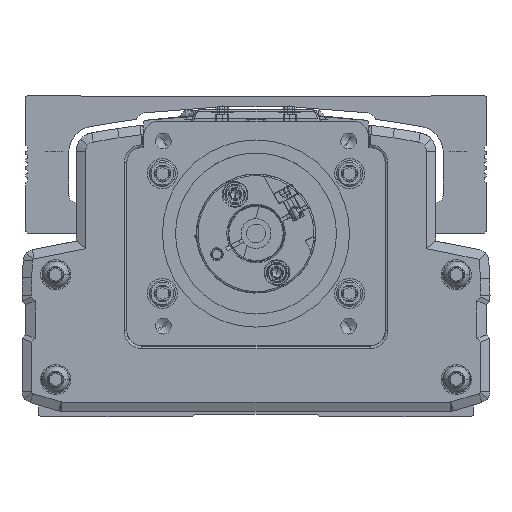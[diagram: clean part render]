
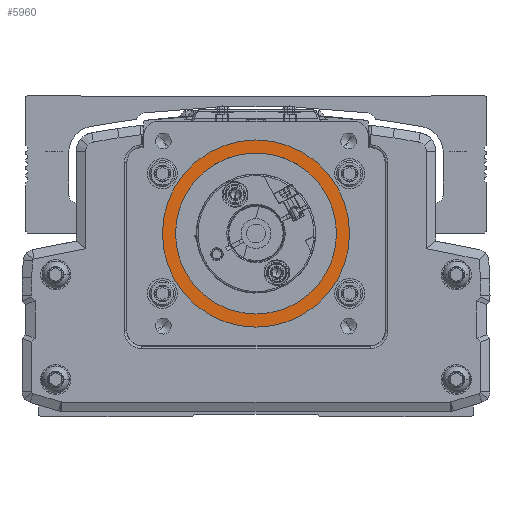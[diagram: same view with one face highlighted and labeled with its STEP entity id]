
A CAD part, front view. The second image highlights one B-rep face of the part: STEP entity #5960.
In plain terms, the highlighted planar face has unit normal (0, -1, 0).
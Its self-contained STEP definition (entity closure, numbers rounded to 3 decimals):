
#5960=ADVANCED_FACE('',(#14024,#14025),#14026,.T.);
#14024=FACE_BOUND('',#25685,.T.);
#14025=FACE_OUTER_BOUND('',#25686,.T.);
#14026=PLANE('',#25687);
#25685=EDGE_LOOP('',(#43986,#43987));
#25686=EDGE_LOOP('',(#43988,#43989));
#25687=AXIS2_PLACEMENT_3D('',#43990,#43991,#43992);
#43986=ORIENTED_EDGE('',*,*,#69164,.F.);
#43987=ORIENTED_EDGE('',*,*,#69165,.F.);
#43988=ORIENTED_EDGE('',*,*,#69166,.F.);
#43989=ORIENTED_EDGE('',*,*,#69167,.F.);
#43990=CARTESIAN_POINT('',(-300.,-635.778,0.));
#43991=DIRECTION('',(0.,-1.0,0.));
#43992=DIRECTION('',(1.0,0.,0.));
#69164=EDGE_CURVE('',#84766,#84767,#84768,.T.);
#69165=EDGE_CURVE('',#84767,#84766,#84769,.T.);
#69166=EDGE_CURVE('',#84770,#84771,#84772,.T.);
#69167=EDGE_CURVE('',#84771,#84770,#84773,.T.);
#84766=VERTEX_POINT('',#106071);
#84767=VERTEX_POINT('',#106072);
#84768=CIRCLE('',#106073,21.5);
#84769=CIRCLE('',#106074,21.5);
#84770=VERTEX_POINT('',#106075);
#84771=VERTEX_POINT('',#106076);
#84772=CIRCLE('',#106077,25.0);
#84773=CIRCLE('',#106078,25.0);
#106071=CARTESIAN_POINT('',(-278.5,-635.778,0.));
#106072=CARTESIAN_POINT('',(-321.5,-635.778,0.));
#106073=AXIS2_PLACEMENT_3D('',#124154,#124155,#124156);
#106074=AXIS2_PLACEMENT_3D('',#124157,#124158,#124159);
#106075=CARTESIAN_POINT('',(-275.,-635.778,0.));
#106076=CARTESIAN_POINT('',(-325.,-635.778,0.));
#106077=AXIS2_PLACEMENT_3D('',#124160,#124161,#124162);
#106078=AXIS2_PLACEMENT_3D('',#124163,#124164,#124165);
#124154=CARTESIAN_POINT('',(-300.,-635.778,0.));
#124155=DIRECTION('',(0.,-1.0,0.));
#124156=DIRECTION('',(1.0,0.,0.));
#124157=CARTESIAN_POINT('',(-300.,-635.778,0.));
#124158=DIRECTION('',(0.,-1.0,0.));
#124159=DIRECTION('',(1.0,0.,0.));
#124160=CARTESIAN_POINT('',(-300.,-635.778,0.));
#124161=DIRECTION('',(0.,1.0,0.));
#124162=DIRECTION('',(1.0,0.,0.));
#124163=CARTESIAN_POINT('',(-300.,-635.778,0.));
#124164=DIRECTION('',(0.,1.0,0.));
#124165=DIRECTION('',(1.0,0.,0.));
